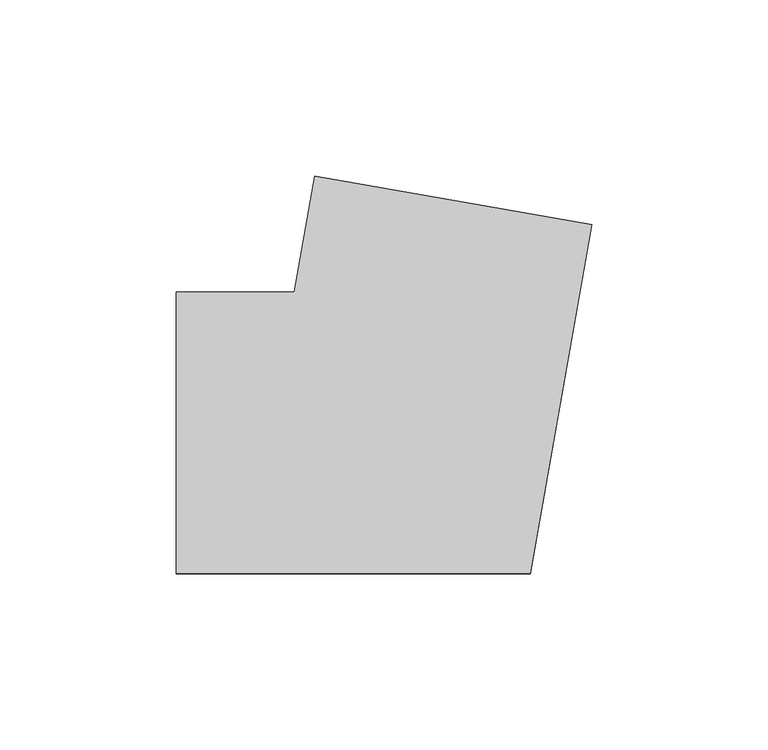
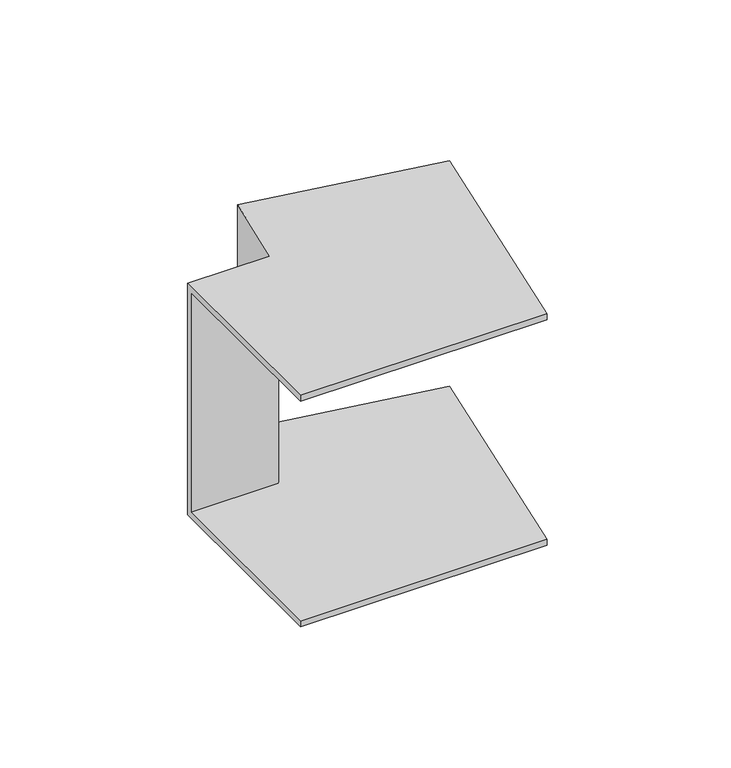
"""IFC4 building model written with IfcOpenShell, lengths in millimetres: cable carrier fitting geometry, КНС_УголВнешний_ILC_DKC : Угол внешний_DKC."""

from ifc_helpers import new_model, si_unit, origin, place, context, project, spatial, faceted_brep, source, transform, mapped, element, save


def cable_carrier_fitting_0039d5f1(model_context):
    return source(origin(), model_context, "Body", "Brep", [
        faceted_brep([(-67.1279705, 40.0, 50.0), (-67.1279705, 40.0, -50.0), (-67.1279705, -40.0, -50.0), (-67.1279705, -40.0, -47.5), (-67.1279705, 37.5, -47.5), (-67.1279705, 37.5, 47.5), (-67.1279705, -40.0, 47.5), (-67.1279705, -40.0, 50.0), (-27.7356604, 73.0540729, 50.0), (51.0489599, 59.1622187, 50.0), (51.0489599, 59.1622187, 47.5), (-25.273641, 72.6199524, 47.5), (-25.273641, 72.6199524, -47.5), (51.0489599, 59.1622187, -47.5), (51.0489599, 59.1622187, -50.0), (-27.7356604, 73.0540729, -50.0), (-33.5639852, 40.0, 50.0), (-33.5639852, 40.0, -50.0), (33.5639852, -40.0, -50.0), (33.5639852, -40.0, -47.5), (-31.4662362, 37.5, -47.5), (-31.4662362, 37.5, 47.5), (33.5639852, -40.0, 47.5), (33.5639852, -40.0, 50.0)], [[[0, 1, 2, 3, 4, 5, 6, 7]], [[8, 9, 10, 11, 12, 13, 14, 15]], [[1, 0, 16, 17]], [[2, 1, 17, 15, 14, 18]], [[3, 2, 18, 19]], [[4, 3, 19, 13, 12, 20]], [[5, 4, 20, 21]], [[6, 5, 21, 11, 10, 22]], [[7, 6, 22, 23]], [[0, 7, 23, 9, 8, 16]], [[17, 16, 8, 15]], [[19, 18, 14, 13]], [[21, 20, 12, 11]], [[23, 22, 10, 9]]]),
    ])


if __name__ == "__main__":
    model = new_model("IFC4")
    model_context = context("Model", 3, world=origin())
    ifc_project = project(units=[si_unit("LENGTHUNIT", "METRE", prefix="MILLI")], contexts=[model_context])
    site = spatial("IfcSite", under=ifc_project)
    building = spatial("IfcBuilding", under=site)
    placement = place(None, origin())
    cable_carrier_fitting_shape = cable_carrier_fitting_0039d5f1(model_context)
    element("IfcCableCarrierFitting", 1, ObjectType="КНС_УголВнешний_ILC_DKC : Угол внешний_DKC", at=placement, inside=building, context=model_context, shape_type="MappedRepresentation", body=[
        mapped(cable_carrier_fitting_shape, transform((0.0, 0.0, 0.0), x_axis=(1.0, 0.0, 0.0), y_axis=(0.0, 1.0, 0.0), z_axis=(0.0, 0.0, 1.0))),
    ])
    save(model, "model.ifc")
